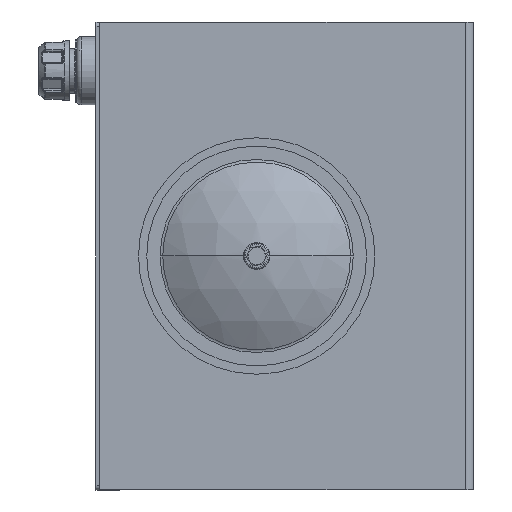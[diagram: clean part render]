
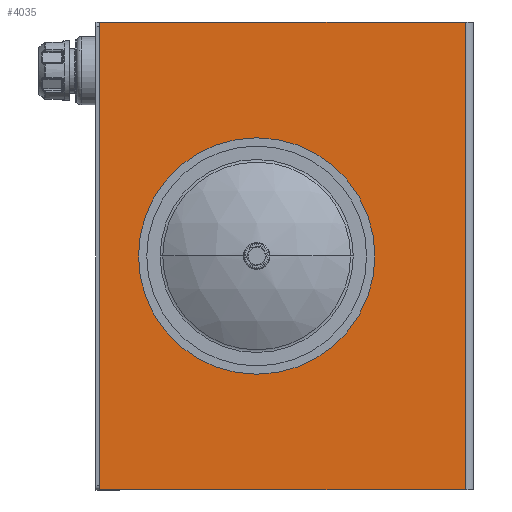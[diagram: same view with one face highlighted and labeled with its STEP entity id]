
A CAD part, left-side view. The second image highlights one B-rep face of the part: STEP entity #4035.
In plain terms, the highlighted planar face has unit normal (-1, 0, 0).
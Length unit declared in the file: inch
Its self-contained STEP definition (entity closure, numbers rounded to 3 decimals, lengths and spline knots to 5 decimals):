
#967 = ORIENTED_EDGE ( 'NONE', *, *, #14154, .T. ) ;
#1347 = PLANE ( 'NONE',  #2654 ) ;
#1895 = CARTESIAN_POINT ( 'NONE',  ( -19.47492, -1.168, 0.96574 ) ) ;
#2029 = VERTEX_POINT ( 'NONE', #11389 ) ;
#2135 = VECTOR ( 'NONE', #10021, 39.37008 ) ;
#2654 = AXIS2_PLACEMENT_3D ( 'NONE', #4184, #23492, #23342 ) ;
#2708 = CARTESIAN_POINT ( 'NONE',  ( -19.47492, -11.8662, -11.03426 ) ) ;
#3341 = VECTOR ( 'NONE', #8494, 39.37008 ) ;
#3516 = FACE_OUTER_BOUND ( 'NONE', #17978, .T. ) ;
#3840 = DIRECTION ( 'NONE',  ( 0., 0., 1. ) ) ;
#3980 = ORIENTED_EDGE ( 'NONE', *, *, #13561, .T. ) ;
#4035 = ADVANCED_FACE ( 'NONE', ( #9260, #3516 ), #1347, .F. ) ;
#4184 = CARTESIAN_POINT ( 'NONE',  ( -19.47492, 6.892, -11.03426 ) ) ;
#4725 = VERTEX_POINT ( 'NONE', #21509 ) ;
#6905 = VECTOR ( 'NONE', #7261, 39.37008 ) ;
#7261 = DIRECTION ( 'NONE',  ( 0., 1., 0. ) ) ;
#7981 = CARTESIAN_POINT ( 'NONE',  ( -19.47492, -11.8662, -11.03426 ) ) ;
#8494 = DIRECTION ( 'NONE',  ( 0., 0., -1. ) ) ;
#8585 = ORIENTED_EDGE ( 'NONE', *, *, #14347, .T. ) ;
#9260 = FACE_BOUND ( 'NONE', #12829, .T. ) ;
#9499 = DIRECTION ( 'NONE',  ( -1., 0., 0. ) ) ;
#10021 = DIRECTION ( 'NONE',  ( 0., 0., 1. ) ) ;
#10076 = VERTEX_POINT ( 'NONE', #23575 ) ;
#10636 = CARTESIAN_POINT ( 'NONE',  ( -19.47492, -1.168, -4.03426 ) ) ;
#11389 = CARTESIAN_POINT ( 'NONE',  ( -19.47492, 6.892, -11.03426 ) ) ;
#11561 = CARTESIAN_POINT ( 'NONE',  ( -19.47492, -12.2955, -11.03426 ) ) ;
#11569 = LINE ( 'NONE', #17979, #6905 ) ;
#12036 = DIRECTION ( 'NONE',  ( 0., -1., 0. ) ) ;
#12829 = EDGE_LOOP ( 'NONE', ( #20096, #16391 ) ) ;
#13377 = EDGE_CURVE ( 'NONE', #17677, #10076, #21576, .T. ) ;
#13561 = EDGE_CURVE ( 'NONE', #2029, #15951, #17539, .T. ) ;
#14154 = EDGE_CURVE ( 'NONE', #19958, #4725, #11569, .T. ) ;
#14228 = EDGE_CURVE ( 'NONE', #10076, #17677, #18955, .T. ) ;
#14347 = EDGE_CURVE ( 'NONE', #15951, #19958, #18374, .T. ) ;
#14411 = EDGE_CURVE ( 'NONE', #4725, #2029, #20958, .T. ) ;
#14618 = DIRECTION ( 'NONE',  ( -1., 0., 0. ) ) ;
#15951 = VERTEX_POINT ( 'NONE', #7981 ) ;
#16391 = ORIENTED_EDGE ( 'NONE', *, *, #13377, .F. ) ;
#17539 = LINE ( 'NONE', #11561, #21850 ) ;
#17677 = VERTEX_POINT ( 'NONE', #10636 ) ;
#17978 = EDGE_LOOP ( 'NONE', ( #8585, #967, #20988, #3980 ) ) ;
#17979 = CARTESIAN_POINT ( 'NONE',  ( -19.47492, -12.2955, 12.96574 ) ) ;
#18374 = LINE ( 'NONE', #2708, #2135 ) ;
#18955 = CIRCLE ( 'NONE', #22398, 5. ) ;
#19245 = CARTESIAN_POINT ( 'NONE',  ( -19.47492, 6.892, -11.03426 ) ) ;
#19958 = VERTEX_POINT ( 'NONE', #23792 ) ;
#20096 = ORIENTED_EDGE ( 'NONE', *, *, #14228, .F. ) ;
#20288 = CARTESIAN_POINT ( 'NONE',  ( -19.47492, -1.168, 0.96574 ) ) ;
#20958 = LINE ( 'NONE', #19245, #3341 ) ;
#20988 = ORIENTED_EDGE ( 'NONE', *, *, #14411, .T. ) ;
#21509 = CARTESIAN_POINT ( 'NONE',  ( -19.47492, 6.892, 12.96574 ) ) ;
#21576 = CIRCLE ( 'NONE', #23133, 5. ) ;
#21850 = VECTOR ( 'NONE', #12036, 39.37008 ) ;
#22156 = DIRECTION ( 'NONE',  ( 0., 0., 1. ) ) ;
#22398 = AXIS2_PLACEMENT_3D ( 'NONE', #20288, #9499, #22156 ) ;
#23133 = AXIS2_PLACEMENT_3D ( 'NONE', #1895, #14618, #3840 ) ;
#23342 = DIRECTION ( 'NONE',  ( 0., 0., -1. ) ) ;
#23492 = DIRECTION ( 'NONE',  ( 1., 0., 0. ) ) ;
#23575 = CARTESIAN_POINT ( 'NONE',  ( -19.47492, -1.168, 5.96574 ) ) ;
#23792 = CARTESIAN_POINT ( 'NONE',  ( -19.47492, -11.8662, 12.96574 ) ) ;
